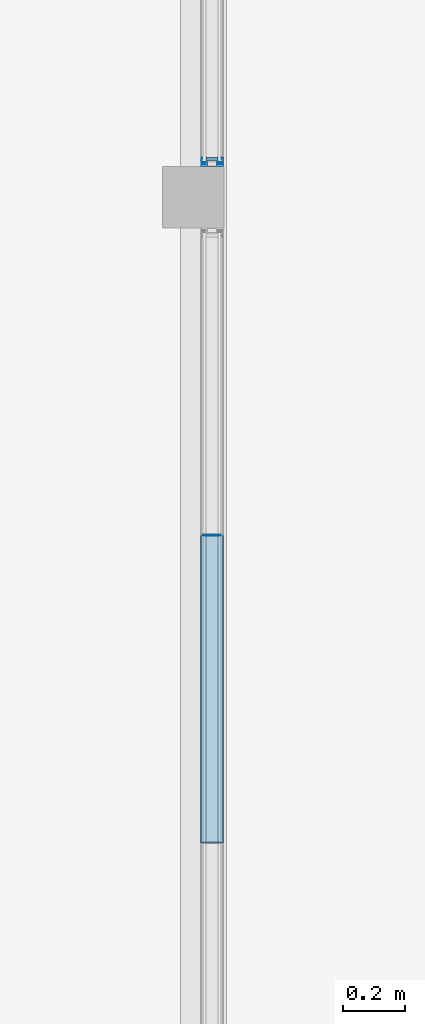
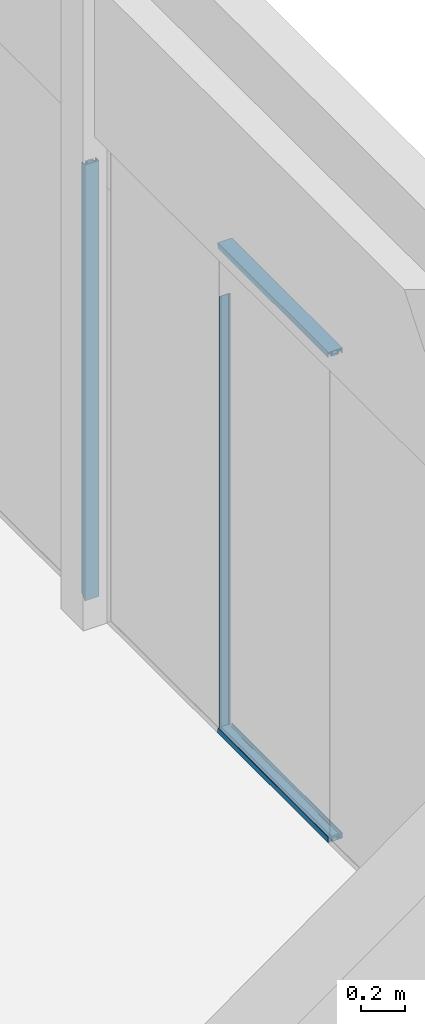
# One storey, part 14 of 65: 6 building element parts, 6 elements without a shape of their own.
"""IFC2X3 building model written with IfcOpenShell, lengths in millimetres."""

from ifc_helpers import new_model, entity, si_unit, converted_unit, derived_unit, money_unit, direction, frame, origin_with_axes, place, context, subcontext, project, spatial, faceted_brep, source, transform, mapped, material, type_object, element, aggregate, save


model = new_model("IFC2X3")

# Units and contexts
model_context = context("Model", 3, precision=0.01, world=origin_with_axes(), true_north=direction((0.0, 1.0)))
body_context = subcontext(model_context, "Body", "Model", "MODEL_VIEW")
ifc_project = project(units=[si_unit("LENGTHUNIT", "METRE", prefix="MILLI"), si_unit("AREAUNIT", "SQUARE_METRE"), si_unit("VOLUMEUNIT", "CUBIC_METRE"), converted_unit("PLANEANGLEUNIT", "DEGREE", entity("IfcPlaneAngleMeasure", 0.0174532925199), si_unit("PLANEANGLEUNIT", "RADIAN"), dimensions=[0, 0, 0, 0, 0, 0, 0]), si_unit("SOLIDANGLEUNIT", "STERADIAN"), money_unit("EUR"), converted_unit("TIMEUNIT", "Year", entity("IfcTimeMeasure", 31556926.0), si_unit("TIMEUNIT", "SECOND"), dimensions=[0, 0, 1, 0, 0, 0, 0]), si_unit("MASSUNIT", "GRAM", prefix="KILO"), si_unit("THERMODYNAMICTEMPERATUREUNIT", "DEGREE_CELSIUS"), si_unit("LUMINOUSINTENSITYUNIT", "LUMEN"), si_unit("ENERGYUNIT", "JOULE", prefix="MEGA"), derived_unit("THERMALCONDUCTANCEUNIT", [(si_unit("POWERUNIT", "WATT"), 1), (si_unit("LENGTHUNIT", "METRE"), -1), (si_unit("THERMODYNAMICTEMPERATUREUNIT", "KELVIN"), -1)]), derived_unit("SPECIFICHEATCAPACITYUNIT", [(si_unit("ENERGYUNIT", "JOULE"), 1), (si_unit("MASSUNIT", "GRAM", prefix="KILO"), -1), (si_unit("THERMODYNAMICTEMPERATUREUNIT", "KELVIN"), -1)]), derived_unit("MASSDENSITYUNIT", [(si_unit("MASSUNIT", "GRAM", prefix="KILO"), 1), (si_unit("VOLUMEUNIT", "CUBIC_METRE"), -1)])], contexts=[model_context])

# Site, building, storey
site_placement = place(None, origin_with_axes())
site = spatial("IfcSite", under=ifc_project, at=site_placement, Name="Puškini 31, Narva", CompositionType="ELEMENT")
building_placement = place(site_placement, origin_with_axes())
building = spatial("IfcBuilding", under=site, at=building_placement, Name="Narva Riigigümnaasium", CompositionType="ELEMENT")
storey_placement = place(building_placement, frame((0.0, 0.0, -1320.0), z_axis=(0.0, 0.0, 1.0), x_axis=(1.0, 0.0, 0.0)))
storey = spatial("IfcBuildingStorey", under=building, at=storey_placement, Name="1.korrus -1.32", CompositionType="ELEMENT", Elevation=-1320.0)

# Curtain wall, member, building element parts
curtain_wall_type = type_object("IfcCurtainWallType", Name="Curtain Wall Type", PredefinedType="NOTDEFINED")
curtain_wall_1_placement = place(storey_placement, frame((30362.9999948, 171898.750025, 0.0), z_axis=(0.0, 0.0, 1.0), x_axis=(1.0, 0.0, 0.0)))
curtain_wall_1 = element("IfcCurtainWall", 1, at=curtain_wall_1_placement, inside=storey, type_object=curtain_wall_type, Name="G-SKLF-06")
member_type_1 = type_object("IfcMemberType", Name="30 x 37", PredefinedType="MULLION")
member_1_placement = place(curtain_wall_1_placement, frame((0.0, -498.75, 0.0), z_axis=(0.0, 0.0, 1.0), x_axis=(0.0, -1.0, 0.0)))
member_1 = element("IfcMember", 2, at=member_1_placement, type_object=member_type_1, Name="G-SKLF-06-raam", ObjectType="MULLION")
aggregate(curtain_wall_1, [member_1])
ifc_material_1 = material(Name="Klaasvill")
shared_shape_1 = source(origin_with_axes(), body_context, "Body", "Brep", [
    faceted_brep([(-13.8499999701, 20.000000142, 13.8499999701), (-7.49999990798, 20.000000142, 7.49999990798), (-7.49999990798, 20.000000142, 2400.00000477), (-13.8499999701, 20.000000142, 2400.00000477), (-13.8499999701, 34.0161444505, 13.8499999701), (-7.49999990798, 34.0161444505, 7.49999990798), (-7.49999990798, 34.0161444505, 2400.00000477), (-13.8499999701, 34.0161444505, 2400.00000477)], [[[0, 1, 2, 3]], [[1, 0, 4, 5]], [[1, 5, 6, 2]], [[2, 6, 7, 3]], [[4, 0, 3, 7]], [[5, 4, 7, 6]]]),
    faceted_brep([(-25.004489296, 32.0307503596, 25.004489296), (-24.987414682, 34.0161444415, 24.987414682), (-24.987414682, 34.0161444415, 2400.00000477), (-25.004489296, 32.0307503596, 2400.00000477), (-25.742237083, 31.2930025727, 25.742237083), (-26.7500193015, 31.0229681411, 26.7500193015), (-27.75780152, 31.2930025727, 27.75780152), (-28.4955493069, 32.0307503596, 28.4955493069), (-28.7655837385, 33.0385325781, 28.7655837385), (-28.5126239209, 34.0161444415, 28.5126239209), (-28.5126239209, 34.0161444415, 2400.00000477), (-28.7655837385, 33.0385325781, 2400.00000477), (-28.4955493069, 32.0307503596, 2400.00000477), (-27.75780152, 31.2930025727, 2400.00000477), (-26.7500193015, 31.0229681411, 2400.00000477), (-25.742237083, 31.2930025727, 2400.00000477)], [[[0, 1, 2, 3]], [[1, 0, 4, 5, 6, 7, 8, 9]], [[1, 9, 10, 2]], [[2, 10, 11, 12, 13, 14, 15, 3]], [[4, 0, 3, 15]], [[5, 4, 15, 14]], [[6, 5, 14, 13]], [[7, 6, 13, 12]], [[8, 7, 12, 11]], [[9, 8, 11, 10]]]),
    faceted_brep([(-7.49999990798, -34.0161445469, 7.49999990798), (-7.49999990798, -19.9999997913, 7.49999990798), (-7.49999990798, -19.9999997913, 2400.00000477), (-7.49999990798, -34.0161445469, 2400.00000477), (-13.8499999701, -34.0161445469, 13.8499999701), (-13.8499999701, -19.9999997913, 13.8499999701), (-13.8499999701, -19.9999997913, 2400.00000477), (-13.8499999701, -34.0161445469, 2400.00000477)], [[[0, 1, 2, 3]], [[1, 0, 4, 5]], [[1, 5, 6, 2]], [[2, 6, 7, 3]], [[4, 0, 3, 7]], [[5, 4, 7, 6]]]),
    faceted_brep([(-24.987414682, -34.0161444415, 24.987414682), (-25.004489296, -32.0307503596, 25.004489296), (-25.004489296, -32.0307503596, 2400.00000477), (-24.987414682, -34.0161444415, 2400.00000477), (-28.5126239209, -34.0161444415, 28.5126239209), (-28.7655837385, -33.0385325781, 28.7655837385), (-28.4955493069, -32.0307503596, 28.4955493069), (-27.75780152, -31.2930025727, 27.75780152), (-26.7500193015, -31.0229681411, 26.7500193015), (-25.742237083, -31.2930025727, 25.742237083), (-25.742237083, -31.2930025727, 2400.00000477), (-26.7500193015, -31.0229681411, 2400.00000477), (-27.75780152, -31.2930025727, 2400.00000477), (-28.4955493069, -32.0307503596, 2400.00000477), (-28.7655837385, -33.0385325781, 2400.00000477), (-28.5126239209, -34.0161444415, 2400.00000477)], [[[0, 1, 2, 3]], [[1, 0, 4, 5, 6, 7, 8, 9]], [[1, 9, 10, 2]], [[2, 10, 11, 12, 13, 14, 15, 3]], [[4, 0, 3, 15]], [[5, 4, 15, 14]], [[6, 5, 14, 13]], [[7, 6, 13, 12]], [[8, 7, 12, 11]], [[9, 8, 11, 10]]]),
])
building_element_part_1_placement = place(member_1_placement, origin_with_axes())
building_element_part_1 = element("IfcBuildingElementPart", 3, at=building_element_part_1_placement, material=ifc_material_1, Name="Klaasvill", context=body_context, shape_type="MappedRepresentation", body=[
    mapped(shared_shape_1, transform((0.0, 0.0, 0.0))),
])
ifc_material_2 = material(Name="Teras RAL7012")
shared_shape_2 = source(origin_with_axes(), body_context, "Body", "Brep", [
    faceted_brep([(-29.5999996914, -17.0000000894, 29.5999996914), (0.0, -17.0000000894, 0.0), (0.0, -17.0000000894, 2400.00000477), (-29.5999996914, -17.0000000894, 2400.00000477), (-29.5999996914, 17.0000000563, 29.5999996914), (0.0, 17.0000000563, 0.0), (-1.9999999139, 15.0000001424, 1.9999999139), (-18.7999996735, 15.0000001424, 18.7999996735), (-18.7999996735, -15.0000001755, 18.7999996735), (-1.9999999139, -15.0000001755, 1.9999999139), (0.0, 17.0000000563, 2400.00000477), (-29.5999996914, 17.0000000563, 2400.00000477), (-1.9999999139, 15.0000001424, 2400.00000477), (-1.9999999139, -15.0000001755, 2400.00000477), (-18.7999996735, -15.0000001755, 2400.00000477), (-18.7999996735, 15.0000001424, 2400.00000477)], [[[0, 1, 2, 3]], [[1, 0, 4, 5], [6, 7, 8, 9]], [[1, 5, 10, 2]], [[2, 10, 11, 3], [12, 13, 14, 15]], [[4, 0, 3, 11]], [[5, 4, 11, 10]], [[7, 6, 12, 15]], [[8, 7, 15, 14]], [[9, 8, 14, 13]], [[6, 9, 13, 12]]]),
    faceted_brep([(-29.5999996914, 17.0000000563, 29.5999996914), (0.0, 17.0, 0.0), (0.0, 17.0, 2400.00000477), (-29.5999996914, 17.0000000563, 2400.00000477), (-30.0000193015, 17.0, 30.0000193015), (-30.0000193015, 20.0, 30.0000193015), (-13.8499999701, 20.000000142, 13.8499999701), (-7.49999999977, 20.0, 7.49999999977), (-7.49999999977, 34.0161444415, 7.49999999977), (-13.8499999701, 34.0161444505, 13.8499999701), (-24.987414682, 34.0161444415, 24.987414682), (-28.5126239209, 34.0161444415, 28.5126239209), (-30.0000193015, 34.0161444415, 30.0000193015), (-30.0000193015, 37.0, 30.0000193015), (0.0, 37.0, 0.0), (0.0, 37.0, 2400.00000477), (-30.0000193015, 37.0, 2400.00000477), (-30.0000193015, 34.0161444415, 2400.00000477), (-28.5126239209, 34.0161444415, 2400.00000477), (-24.987414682, 34.0161444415, 2400.00000477), (-13.8499999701, 34.0161444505, 2400.00000477), (-7.49999999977, 34.0161444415, 2400.00000477), (-7.49999999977, 20.0, 2400.00000477), (-13.8499999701, 20.000000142, 2400.00000477), (-30.0000193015, 20.0, 2400.00000477), (-30.0000193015, 17.0, 2400.00000477)], [[[0, 1, 2, 3]], [[1, 0, 4, 5, 6, 7, 8, 9, 10, 11, 12, 13, 14]], [[1, 14, 15, 2]], [[2, 15, 16, 17, 18, 19, 20, 21, 22, 23, 24, 25, 3]], [[4, 0, 3, 25]], [[5, 4, 25, 24]], [[6, 5, 24, 23]], [[7, 6, 23, 22]], [[8, 7, 22, 21]], [[9, 8, 21, 20]], [[10, 9, 20, 19]], [[11, 10, 19, 18]], [[12, 11, 18, 17]], [[13, 12, 17, 16]], [[14, 13, 16, 15]]]),
    faceted_brep([(0.0, -37.0, 0.0), (0.0, -17.0, 0.0), (0.0, -17.0, 2400.00000477), (0.0, -37.0, 2400.00000477), (-30.0000193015, -37.0, 30.0000193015), (-30.0000193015, -34.0161444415, 30.0000193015), (-28.5126239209, -34.0161444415, 28.5126239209), (-24.987414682, -34.0161444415, 24.987414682), (-13.8499999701, -34.0161445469, 13.8499999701), (-7.49999999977, -34.0161444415, 7.49999999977), (-7.49999999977, -20.0, 7.49999999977), (-13.8499999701, -19.9999997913, 13.8499999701), (-30.0000193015, -20.0, 30.0000193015), (-30.0000193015, -17.0, 30.0000193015), (-29.5999996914, -17.0000000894, 29.5999996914), (-29.5999996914, -17.0000000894, 2400.00000477), (-30.0000193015, -17.0, 2400.00000477), (-30.0000193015, -20.0, 2400.00000477), (-13.8499999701, -19.9999997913, 2400.00000477), (-7.49999999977, -20.0, 2400.00000477), (-7.49999999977, -34.0161444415, 2400.00000477), (-13.8499999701, -34.0161445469, 2400.00000477), (-24.987414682, -34.0161444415, 2400.00000477), (-28.5126239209, -34.0161444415, 2400.00000477), (-30.0000193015, -34.0161444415, 2400.00000477), (-30.0000193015, -37.0, 2400.00000477)], [[[0, 1, 2, 3]], [[1, 0, 4, 5, 6, 7, 8, 9, 10, 11, 12, 13, 14]], [[1, 14, 15, 2]], [[2, 15, 16, 17, 18, 19, 20, 21, 22, 23, 24, 25, 3]], [[4, 0, 3, 25]], [[5, 4, 25, 24]], [[6, 5, 24, 23]], [[7, 6, 23, 22]], [[8, 7, 22, 21]], [[9, 8, 21, 20]], [[10, 9, 20, 19]], [[11, 10, 19, 18]], [[12, 11, 18, 17]], [[13, 12, 17, 16]], [[14, 13, 16, 15]]]),
])
building_element_part_2_placement = place(member_1_placement, origin_with_axes())
building_element_part_2 = element("IfcBuildingElementPart", 4, at=building_element_part_2_placement, material=ifc_material_2, Name="Teras RAL7012", context=body_context, shape_type="MappedRepresentation", body=[
    mapped(shared_shape_2, transform((0.0, 0.0, 0.0))),
])
aggregate(member_1, [building_element_part_1, building_element_part_2])

# Curtain wall, members, building element parts
curtain_wall_2_placement = place(storey_placement, frame((30362.9999988, 168706.249936, -1.99739158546e-06), z_axis=(0.0, 0.0, 1.0), x_axis=(1.0, 0.0, 0.0)))
curtain_wall_2 = element("IfcCurtainWall", 5, at=curtain_wall_2_placement, inside=storey, type_object=curtain_wall_type, Name="G-SKLF-05")
member_type_2 = type_object("IfcMemberType", Name="Siseklaasfassaad - Raam n2htamatu 3 x 29", PredefinedType="MULLION")
member_2_placement = place(curtain_wall_2_placement, frame((0.0, 1496.25, 0.0), z_axis=(0.0, 0.0, 1.0), x_axis=(0.0, -1.0, 0.0)))
member_2 = element("IfcMember", 6, at=member_2_placement, type_object=member_type_2, Name="G-SKLF-05-klaasidevaheline tihend", ObjectType="MULLION")
ifc_material_3 = material(Name="Klaas")
shared_shape_3 = source(origin_with_axes(), body_context, "Body", "Brep", [
    faceted_brep([(-1.50001386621, 20.0064497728, 30.0000193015), (-1.5000138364, 20.0064497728, 2400.0000456), (-1.5000138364, 29.0064496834, 2400.0000456), (-1.50001386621, 29.0064496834, 30.0000193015), (0.0, 20.0064497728, 0.0), (1.49998613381, 20.0064497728, 30.0000193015), (1.4999861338, 20.0064497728, 2400.0000456), (1.4999861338, 29.0064496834, 2400.0000456), (0.0, 29.0064496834, 0.0), (1.49998613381, 29.0064496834, 30.0000193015)], [[[0, 1, 2, 3]], [[4, 5, 6, 1, 0]], [[1, 6, 7, 2]], [[8, 3, 2, 7, 9]], [[8, 4, 0, 3]], [[9, 5, 4, 8]], [[9, 7, 6, 5]]]),
    faceted_brep([(-1.50001386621, -28.9935503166, 30.0000193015), (-1.5000138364, -28.9935503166, 2400.0000456), (-1.5000138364, -19.993550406, 2400.0000456), (-1.50001386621, -19.993550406, 30.0000193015), (0.0, -28.9935503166, 0.0), (1.49998613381, -28.9935503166, 30.0000193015), (1.4999861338, -28.9935503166, 2400.0000456), (1.4999861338, -19.993550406, 2400.0000456), (0.0, -19.993550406, 0.0), (1.49998613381, -19.993550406, 30.0000193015)], [[[0, 1, 2, 3]], [[4, 5, 6, 1, 0]], [[6, 7, 2, 1]], [[8, 3, 2, 7, 9]], [[8, 4, 0, 3]], [[9, 5, 4, 8]], [[9, 7, 6, 5]]]),
])
building_element_part_3_placement = place(member_2_placement, origin_with_axes())
building_element_part_3 = element("IfcBuildingElementPart", 7, at=building_element_part_3_placement, material=ifc_material_3, Name="Klaas", context=body_context, shape_type="MappedRepresentation", body=[
    mapped(shared_shape_3, transform((0.0, 0.0, 0.0), x_axis=(-1.0, 0.0, 0.0), y_axis=(0.0, -1.0, 0.0), z_axis=(0.0, 0.0, 1.0))),
])
ifc_material_4 = material(Name="VKR-06_Õhkvahe")
shared_shape_4 = source(origin_with_axes(), body_context, "Body", "Brep", [
    faceted_brep([(-1.50001386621, -19.9935503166, 30.0000193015), (-1.5000138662, -19.9935503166, 2400.0000456), (-1.5000138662, 20.0064496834, 2400.0000456), (-1.50001386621, 20.0064496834, 30.0000193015), (0.0, -19.9935503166, 0.0), (1.49998613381, -19.9935503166, 30.0000193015), (1.4999861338, -19.9935503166, 2400.0000456), (1.4999861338, 20.0064496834, 2400.0000456), (0.0, 20.0064496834, 0.0), (1.49998613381, 20.0064496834, 30.0000193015)], [[[0, 1, 2, 3]], [[4, 5, 6, 1, 0]], [[6, 7, 2, 1]], [[8, 3, 2, 7, 9]], [[8, 4, 0, 3]], [[9, 5, 4, 8]], [[9, 7, 6, 5]]]),
])
building_element_part_4_placement = place(member_2_placement, origin_with_axes())
building_element_part_4 = element("IfcBuildingElementPart", 8, at=building_element_part_4_placement, material=ifc_material_4, Name="VKR-06_Õhkvahe", context=body_context, shape_type="MappedRepresentation", body=[
    mapped(shared_shape_4, transform((0.0, 0.0, 0.0), x_axis=(-1.0, 0.0, 0.0), y_axis=(0.0, -1.0, 0.0), z_axis=(0.0, 0.0, 1.0))),
])
aggregate(member_2, [building_element_part_3, building_element_part_4])
member_type_3 = type_object("IfcMemberType", Name="Boundary Frame 30 x 37", PredefinedType="MULLION")
member_3_placement = place(curtain_wall_2_placement, frame((0.0, 498.75, 2700.00009054), z_axis=(0.0, 1.0, 0.0), x_axis=(0.0, 0.0, 1.0)))
member_3 = element("IfcMember", 9, at=member_3_placement, type_object=member_type_3, Name="G-SKLF-12-raam", ObjectType="MULLION")
shared_shape_5 = source(origin_with_axes(), body_context, "Body", "Brep", [
    faceted_brep([(29.5999996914, -17.0000000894, 1.47998535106), (29.5999996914, -17.0000000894, 996.019987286), (0.0, -17.0000000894, 997.5), (0.0, -17.0000000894, 0.0), (29.5999996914, 17.0000000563, 1.47998535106), (29.5999996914, 17.0000000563, 996.019987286), (0.0, 17.0000000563, 997.5), (1.9999999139, 15.0000001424, 997.399999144), (18.7999996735, 15.0000001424, 996.559991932), (18.7999996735, -15.0000001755, 996.559991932), (1.9999999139, -15.0000001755, 997.399999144), (0.0, 17.0000000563, 0.0), (1.9999999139, 15.0000001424, 0.0999990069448), (1.9999999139, -15.0000001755, 0.0999990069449), (18.7999996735, -15.0000001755, 0.939990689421), (18.7999996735, 15.0000001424, 0.939990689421)], [[[0, 1, 2, 3]], [[4, 5, 1, 0]], [[2, 1, 5, 6], [7, 8, 9, 10]], [[3, 2, 6, 11]], [[3, 11, 4, 0], [12, 13, 14, 15]], [[11, 6, 5, 4]], [[15, 8, 7, 12]], [[14, 9, 8, 15]], [[13, 10, 9, 14]], [[12, 7, 10, 13]]]),
    faceted_brep([(29.5999996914, 17.0000000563, 1.47998535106), (29.5999996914, 17.0000000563, 996.019987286), (0.0, 17.0, 997.5), (0.0, 17.0, 0.0), (30.0000193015, 17.0, 1.49998613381), (30.0000193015, 17.0, 995.999986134), (30.0000193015, 20.0, 995.999986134), (13.8499999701, 20.000000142, 996.807494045), (7.49999999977, 20.0, 997.124996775), (7.49999999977, 34.0161444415, 997.124996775), (13.8499999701, 34.0161444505, 996.807494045), (24.987414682, 34.0161444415, 996.25061852), (28.5126239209, 34.0161444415, 996.074356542), (30.0000193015, 34.0161444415, 995.999986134), (30.0000193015, 37.0, 995.999986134), (0.0, 37.0, 997.5), (0.0, 37.0, 0.0), (30.0000193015, 37.0, 1.49998613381), (30.0000193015, 34.0161444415, 1.49998613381), (28.5126239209, 34.0161444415, 1.42561710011), (24.987414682, 34.0161444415, 1.24935838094), (13.8499999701, 34.0161444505, 0.69249315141), (7.49999999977, 34.0161444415, 0.374996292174), (7.49999999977, 20.0, 0.374996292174), (13.8499999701, 20.000000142, 0.69249315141), (30.0000193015, 20.0, 1.49998613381)], [[[0, 1, 2, 3]], [[4, 5, 1, 0]], [[2, 1, 5, 6, 7, 8, 9, 10, 11, 12, 13, 14, 15]], [[3, 2, 15, 16]], [[3, 16, 17, 18, 19, 20, 21, 22, 23, 24, 25, 4, 0]], [[25, 6, 5, 4]], [[24, 7, 6, 25]], [[23, 8, 7, 24]], [[22, 9, 8, 23]], [[21, 10, 9, 22]], [[20, 11, 10, 21]], [[19, 12, 11, 20]], [[18, 13, 12, 19]], [[17, 14, 13, 18]], [[16, 15, 14, 17]]]),
    faceted_brep([(0.0, -37.0, 0.0), (0.0, -37.0, 997.5), (0.0, -17.0, 997.5), (0.0, -17.0, 0.0), (30.0000193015, -37.0, 1.49998613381), (30.0000193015, -37.0, 995.999986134), (30.0000193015, -34.0161444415, 995.999986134), (28.5126239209, -34.0161444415, 996.074356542), (24.987414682, -34.0161444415, 996.25061852), (13.8499999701, -34.0161445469, 996.807494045), (7.49999999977, -34.0161444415, 997.124996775), (7.49999999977, -20.0, 997.124996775), (13.8499999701, -19.9999997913, 996.807494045), (30.0000193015, -20.0, 995.999986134), (30.0000193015, -17.0, 995.999986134), (29.5999996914, -17.0000000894, 996.019987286), (29.5999996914, -17.0000000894, 1.47998535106), (30.0000193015, -17.0, 1.49998613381), (30.0000193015, -20.0, 1.49998613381), (13.8499999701, -19.9999997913, 0.69249315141), (7.49999999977, -20.0, 0.374996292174), (7.49999999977, -34.0161444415, 0.374996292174), (13.8499999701, -34.0161445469, 0.69249315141), (24.987414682, -34.0161444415, 1.24935838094), (28.5126239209, -34.0161444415, 1.42561710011), (30.0000193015, -34.0161444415, 1.49998613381)], [[[0, 1, 2, 3]], [[4, 5, 1, 0]], [[2, 1, 5, 6, 7, 8, 9, 10, 11, 12, 13, 14, 15]], [[3, 2, 15, 16]], [[3, 16, 17, 18, 19, 20, 21, 22, 23, 24, 25, 4, 0]], [[25, 6, 5, 4]], [[24, 7, 6, 25]], [[23, 8, 7, 24]], [[22, 9, 8, 23]], [[21, 10, 9, 22]], [[20, 11, 10, 21]], [[19, 12, 11, 20]], [[18, 13, 12, 19]], [[17, 14, 13, 18]], [[16, 15, 14, 17]]]),
])
building_element_part_5_placement = place(member_3_placement, origin_with_axes())
building_element_part_5 = element("IfcBuildingElementPart", 10, at=building_element_part_5_placement, material=ifc_material_2, Name="Teras RAL7012", context=body_context, shape_type="MappedRepresentation", body=[
    mapped(shared_shape_5, transform((0.0, 0.0, 0.0), x_axis=(-1.0, 0.0, 0.0), y_axis=(0.0, -1.0, 0.0), z_axis=(0.0, 0.0, 1.0))),
])
aggregate(member_3, [building_element_part_5])
member_4_placement = place(curtain_wall_2_placement, frame((0.0, 498.75, 0.0), z_axis=(0.0, 1.0, 0.0), x_axis=(0.0, 0.0, 1.0)))
member_4 = element("IfcMember", 11, at=member_4_placement, type_object=member_type_3, Name="G-SKLF-07-raam", ObjectType="MULLION")
aggregate(curtain_wall_2, [member_2, member_4, member_3])
shared_shape_6 = source(origin_with_axes(), body_context, "Body", "Brep", [
    faceted_brep([(-29.5999996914, -17.0000000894, 1.47998535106), (0.0, -17.0000000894, 0.0), (0.0, -17.0000000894, 997.5), (-29.5999996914, -17.0000000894, 996.019987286), (-29.5999996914, 17.0000000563, 1.47998535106), (0.0, 17.0000000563, 0.0), (-1.9999999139, 15.0000001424, 0.0999990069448), (-18.7999996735, 15.0000001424, 0.939990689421), (-18.7999996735, -15.0000001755, 0.939990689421), (-1.9999999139, -15.0000001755, 0.0999990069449), (0.0, 17.0000000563, 997.5), (-29.5999996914, 17.0000000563, 996.019987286), (-1.9999999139, 15.0000001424, 997.399999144), (-1.9999999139, -15.0000001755, 997.399999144), (-18.7999996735, -15.0000001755, 996.559991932), (-18.7999996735, 15.0000001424, 996.559991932)], [[[0, 1, 2, 3]], [[1, 0, 4, 5], [6, 7, 8, 9]], [[1, 5, 10, 2]], [[2, 10, 11, 3], [12, 13, 14, 15]], [[4, 0, 3, 11]], [[5, 4, 11, 10]], [[7, 6, 12, 15]], [[8, 7, 15, 14]], [[9, 8, 14, 13]], [[6, 9, 13, 12]]]),
    faceted_brep([(-29.5999996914, 17.0000000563, 1.47998535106), (0.0, 17.0, 0.0), (0.0, 17.0, 997.5), (-29.5999996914, 17.0000000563, 996.019987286), (-30.0000193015, 17.0, 1.49998613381), (-30.0000193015, 20.0, 1.49998613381), (-13.8499999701, 20.000000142, 0.69249315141), (-7.49999999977, 20.0, 0.374996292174), (-7.49999999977, 34.0161444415, 0.374996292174), (-13.8499999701, 34.0161444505, 0.69249315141), (-24.987414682, 34.0161444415, 1.24935838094), (-28.5126239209, 34.0161444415, 1.42561710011), (-30.0000193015, 34.0161444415, 1.49998613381), (-30.0000193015, 37.0, 1.49998613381), (0.0, 37.0, 0.0), (0.0, 37.0, 997.5), (-30.0000193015, 37.0, 995.999986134), (-30.0000193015, 34.0161444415, 995.999986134), (-28.5126239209, 34.0161444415, 996.074356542), (-24.987414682, 34.0161444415, 996.25061852), (-13.8499999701, 34.0161444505, 996.807494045), (-7.49999999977, 34.0161444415, 997.124996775), (-7.49999999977, 20.0, 997.124996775), (-13.8499999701, 20.000000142, 996.807494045), (-30.0000193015, 20.0, 995.999986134), (-30.0000193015, 17.0, 995.999986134)], [[[0, 1, 2, 3]], [[1, 0, 4, 5, 6, 7, 8, 9, 10, 11, 12, 13, 14]], [[1, 14, 15, 2]], [[2, 15, 16, 17, 18, 19, 20, 21, 22, 23, 24, 25, 3]], [[4, 0, 3, 25]], [[5, 4, 25, 24]], [[6, 5, 24, 23]], [[7, 6, 23, 22]], [[8, 7, 22, 21]], [[9, 8, 21, 20]], [[10, 9, 20, 19]], [[11, 10, 19, 18]], [[12, 11, 18, 17]], [[13, 12, 17, 16]], [[14, 13, 16, 15]]]),
    faceted_brep([(0.0, -37.0, 0.0), (0.0, -17.0, 0.0), (0.0, -17.0, 997.5), (0.0, -37.0, 997.5), (-30.0000193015, -37.0, 1.49998613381), (-30.0000193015, -34.0161444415, 1.49998613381), (-28.5126239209, -34.0161444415, 1.42561710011), (-24.987414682, -34.0161444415, 1.24935838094), (-13.8499999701, -34.0161445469, 0.69249315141), (-7.49999999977, -34.0161444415, 0.374996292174), (-7.49999999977, -20.0, 0.374996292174), (-13.8499999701, -19.9999997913, 0.69249315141), (-30.0000193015, -20.0, 1.49998613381), (-30.0000193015, -17.0, 1.49998613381), (-29.5999996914, -17.0000000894, 1.47998535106), (-29.5999996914, -17.0000000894, 996.019987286), (-30.0000193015, -17.0, 995.999986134), (-30.0000193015, -20.0, 995.999986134), (-13.8499999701, -19.9999997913, 996.807494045), (-7.49999999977, -20.0, 997.124996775), (-7.49999999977, -34.0161444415, 997.124996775), (-13.8499999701, -34.0161445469, 996.807494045), (-24.987414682, -34.0161444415, 996.25061852), (-28.5126239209, -34.0161444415, 996.074356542), (-30.0000193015, -34.0161444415, 995.999986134), (-30.0000193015, -37.0, 995.999986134)], [[[0, 1, 2, 3]], [[1, 0, 4, 5, 6, 7, 8, 9, 10, 11, 12, 13, 14]], [[1, 14, 15, 2]], [[2, 15, 16, 17, 18, 19, 20, 21, 22, 23, 24, 25, 3]], [[4, 0, 3, 25]], [[5, 4, 25, 24]], [[6, 5, 24, 23]], [[7, 6, 23, 22]], [[8, 7, 22, 21]], [[9, 8, 21, 20]], [[10, 9, 20, 19]], [[11, 10, 19, 18]], [[12, 11, 18, 17]], [[13, 12, 17, 16]], [[14, 13, 16, 15]]]),
])
building_element_part_6_placement = place(member_4_placement, origin_with_axes())
building_element_part_6 = element("IfcBuildingElementPart", 12, at=building_element_part_6_placement, material=ifc_material_2, Name="Teras RAL7012", context=body_context, shape_type="MappedRepresentation", body=[
    mapped(shared_shape_6, transform((0.0, 0.0, 0.0), x_axis=(-1.0, 0.0, 0.0), y_axis=(0.0, -1.0, 0.0), z_axis=(0.0, 0.0, 1.0))),
])
aggregate(member_4, [building_element_part_6])

save(model, "model.ifc")
